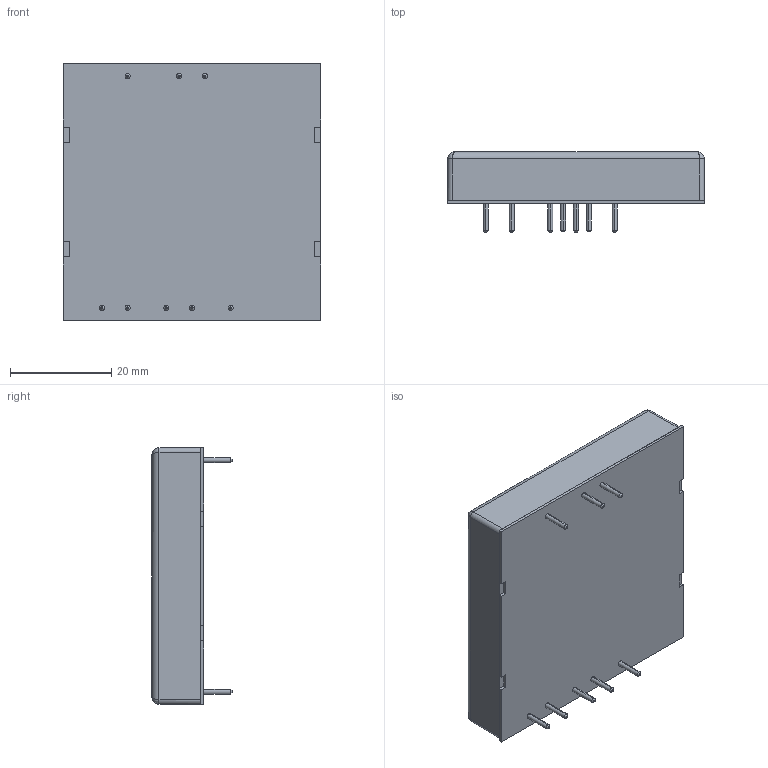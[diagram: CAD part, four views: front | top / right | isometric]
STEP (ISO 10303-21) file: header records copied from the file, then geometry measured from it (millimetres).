
FILE_DESCRIPTION (( 'STEP AP214' ), '1' );
FILE_NAME ('TEN 40WI.STEP', '2018-10-11T02:45:00', ( 'user' ), ( '' ), 'SwSTEP 2.0', 'SolidWorks 2016', '' );
FILE_SCHEMA (( 'AUTOMOTIVE_DESIGN' ));
Length unit declared in the file: millimetre
Products named in the file (1): TEN 40WI
Bounding box: 50.8 x 15.8 x 50.8 mm (x, y, z)
Volume: 26080.6 mm3; surface area: 7216 mm2
Topology: 1 solids, 1 shells, 86 faces, 196 edges, 116 vertices
Faces by surface type: plane 42, cylinder 24, cone 16, bspline 4
Entity records: 2797 total; most frequent: CARTESIAN_POINT 595, DIRECTION 398, ORIENTED_EDGE 384, EDGE_CURVE 192, AXIS2_PLACEMENT_3D 135, VECTOR 128, LINE 128, VERTEX_POINT 116
